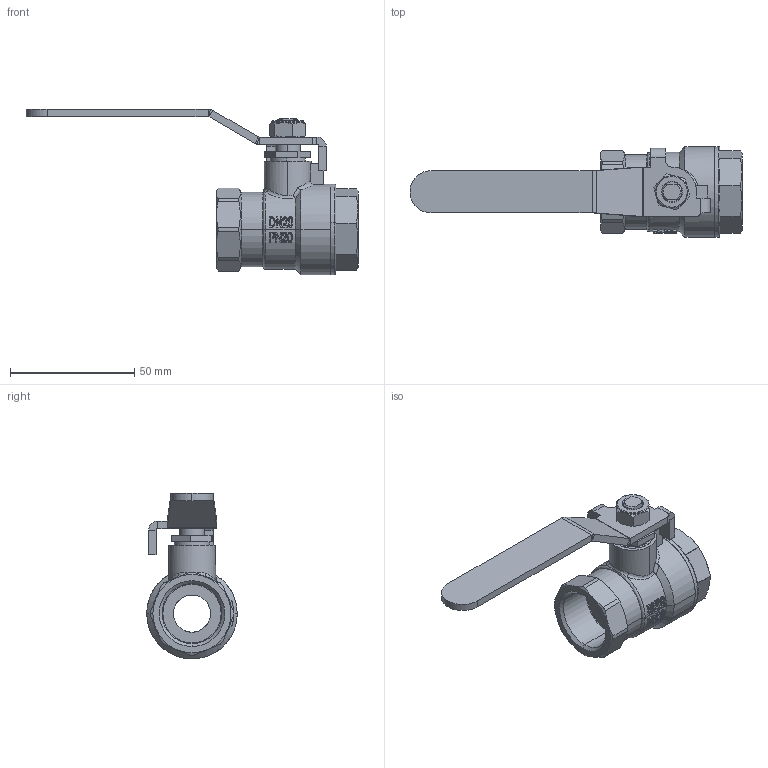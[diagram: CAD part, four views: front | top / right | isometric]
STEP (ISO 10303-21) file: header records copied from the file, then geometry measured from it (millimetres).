
FILE_DESCRIPTION(/* description */ (''),/* implementation_level */ '2;1');
FILE_NAME(/* name */ '0173.stp',/* time_stamp */ '2022-05-12T16:25:00+08:00',/* author */ (''),/* organization */ (''),/* preprocessor_version */ 'ST-DEVELOPER v11',/* originating_system */ 'SIEMENS PLM Software NX 7.5',/* authorisation */ '');
FILE_SCHEMA (('CONFIG_CONTROL_DESIGN'));
Length unit declared in the file: millimetre
Products named in the file (1): 0173
Bounding box: 133.83 x 36.5 x 66.82 mm (x, y, z)
Volume: 32314 mm3; surface area: 25141.3 mm2
Topology: 6 solids, 6 shells, 395 faces, 975 edges, 618 vertices
Faces by surface type: plane 156, cylinder 104, bspline 68, cone 53, torus 12, sphere 2
Entity records: 33640 total; most frequent: CARTESIAN_POINT 24668, ORIENTED_EDGE 1960, DIRECTION 1654, EDGE_CURVE 980, AXIS2_PLACEMENT_3D 644, VERTEX_POINT 626, EDGE_LOOP 436, ADVANCED_FACE 395
